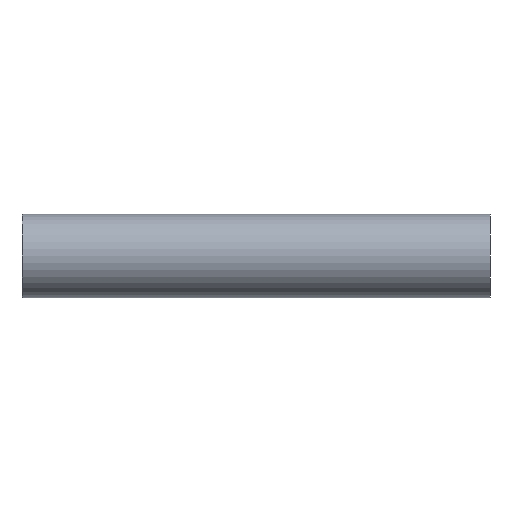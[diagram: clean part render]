
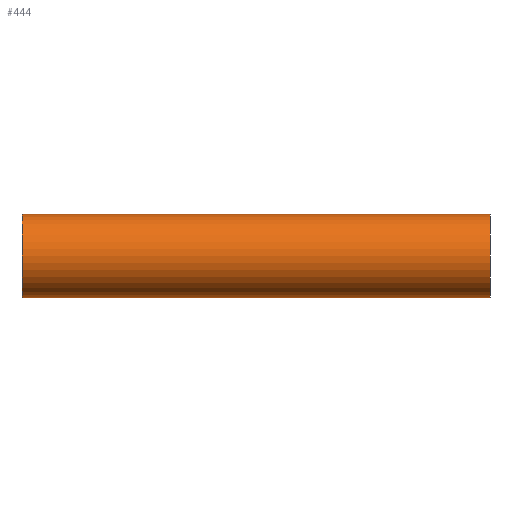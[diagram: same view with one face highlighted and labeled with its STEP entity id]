
A CAD part, front view. The second image highlights one B-rep face of the part: STEP entity #444.
In plain terms, the highlighted cylindrical face has radius 9.525 mm (diameter 19.05 mm), a partial arc.
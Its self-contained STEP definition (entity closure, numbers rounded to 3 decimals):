
#17 = EDGE_LOOP ( 'NONE', ( #354, #303, #277, #98 ) ) ;
#19 = CYLINDRICAL_SURFACE ( 'NONE', #396, 9.525 ) ;
#44 = DIRECTION ( 'NONE',  ( 1., 0., 0. ) ) ;
#48 = CARTESIAN_POINT ( 'NONE',  ( -53.5, 0., 0. ) ) ;
#50 = VECTOR ( 'NONE', #64, 1000. ) ;
#64 = DIRECTION ( 'NONE',  ( -1., 0., 0. ) ) ;
#67 = DIRECTION ( 'NONE',  ( -1., 0., 0. ) ) ;
#73 = AXIS2_PLACEMENT_3D ( 'NONE', #48, #44, #307 ) ;
#98 = ORIENTED_EDGE ( 'NONE', *, *, #178, .T. ) ;
#123 = LINE ( 'NONE', #407, #375 ) ;
#154 = EDGE_CURVE ( 'NONE', #292, #209, #195, .T. ) ;
#175 = EDGE_CURVE ( 'NONE', #209, #429, #176, .T. ) ;
#176 = LINE ( 'NONE', #463, #50 ) ;
#178 = EDGE_CURVE ( 'NONE', #429, #415, #266, .T. ) ;
#188 = FACE_OUTER_BOUND ( 'NONE', #17, .T. ) ;
#195 = CIRCLE ( 'NONE', #475, 9.525 ) ;
#199 = DIRECTION ( 'NONE',  ( -1., 0., 0. ) ) ;
#209 = VERTEX_POINT ( 'NONE', #413 ) ;
#251 = DIRECTION ( 'NONE',  ( 0., 0., 1. ) ) ;
#265 = CARTESIAN_POINT ( 'NONE',  ( 80.441, 0., 0. ) ) ;
#266 = CIRCLE ( 'NONE', #73, 9.525 ) ;
#277 = ORIENTED_EDGE ( 'NONE', *, *, #175, .T. ) ;
#292 = VERTEX_POINT ( 'NONE', #424 ) ;
#297 = EDGE_CURVE ( 'NONE', #292, #415, #123, .T. ) ;
#303 = ORIENTED_EDGE ( 'NONE', *, *, #154, .T. ) ;
#307 = DIRECTION ( 'NONE',  ( 0., 0., 1. ) ) ;
#316 = DIRECTION ( 'NONE',  ( -1., 0., 0. ) ) ;
#354 = ORIENTED_EDGE ( 'NONE', *, *, #297, .F. ) ;
#368 = DIRECTION ( 'NONE',  ( 0., 0., 1. ) ) ;
#375 = VECTOR ( 'NONE', #316, 1000. ) ;
#396 = AXIS2_PLACEMENT_3D ( 'NONE', #265, #67, #368 ) ;
#407 = CARTESIAN_POINT ( 'NONE',  ( 80.441, 0., -9.525 ) ) ;
#413 = CARTESIAN_POINT ( 'NONE',  ( 53.5, 0., 9.525 ) ) ;
#415 = VERTEX_POINT ( 'NONE', #457 ) ;
#424 = CARTESIAN_POINT ( 'NONE',  ( 53.5, 0., -9.525 ) ) ;
#429 = VERTEX_POINT ( 'NONE', #476 ) ;
#444 = ADVANCED_FACE ( 'NONE', ( #188 ), #19, .T. ) ;
#451 = CARTESIAN_POINT ( 'NONE',  ( 53.5, 0., 0. ) ) ;
#457 = CARTESIAN_POINT ( 'NONE',  ( -53.5, 0., -9.525 ) ) ;
#463 = CARTESIAN_POINT ( 'NONE',  ( 80.441, 0., 9.525 ) ) ;
#475 = AXIS2_PLACEMENT_3D ( 'NONE', #451, #199, #251 ) ;
#476 = CARTESIAN_POINT ( 'NONE',  ( -53.5, 0., 9.525 ) ) ;
